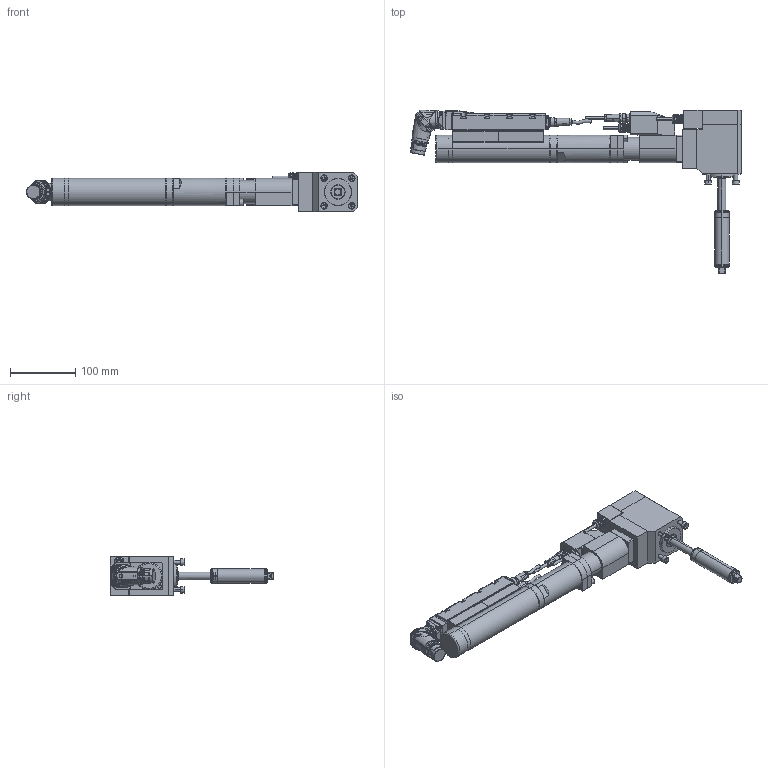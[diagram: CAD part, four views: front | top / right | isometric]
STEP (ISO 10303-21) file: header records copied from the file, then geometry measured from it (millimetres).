
FILE_DESCRIPTION (( 'STEP AP214' ), '1' );
FILE_NAME ('70082584_ESX106DRXWX65AWDX150-65.STEP', '2026-04-13T06:48:41', ( '' ), ( '' ), 'SwSTEP 2.0', 'SolidWorks 2020', '' );
FILE_SCHEMA (( 'AUTOMOTIVE_DESIGN' ));
Length unit declared in the file: millimetre
Products named in the file (1): 70082584_ESX106DRXWX65AWDX150-65
Bounding box: 508.06 x 251.4 x 60 mm (x, y, z)
Volume: 1469019.1 mm3; surface area: 186522.5 mm2
Topology: 13 solids, 13 shells, 3101 faces, 7945 edges, 5052 vertices
Faces by surface type: plane 1234, cylinder 912, cone 504, bspline 312, torus 135, sphere 4
Entity records: 141439 total; most frequent: CARTESIAN_POINT 35258, ORIENTED_EDGE 15810, DIRECTION 13972, EDGE_CURVE 7905, AXIS2_PLACEMENT_3D 5279, VERTEX_POINT 5050, LINE 3414, VECTOR 3414
